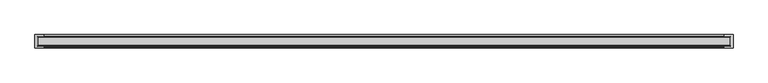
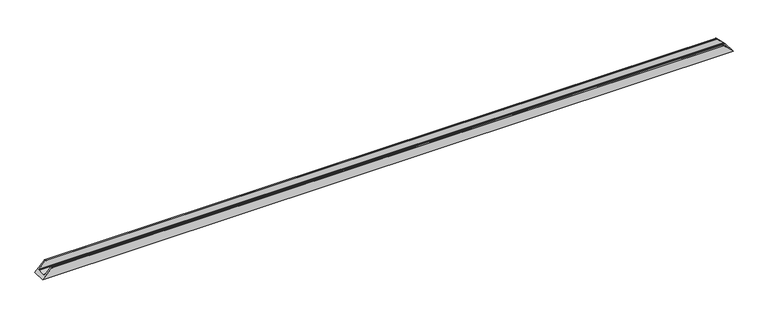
"""IFC4 building model written with IfcOpenShell, lengths in millimetres: proxy geometry, Weiku - Montante - Caixilho único 02.3.02.403 : Weiku - Montante - Caixilho único 02.3.02.403."""

from ifc_helpers import new_model, si_unit, frame, origin, place, context, project, spatial, ellipse_curve, source, transform, mapped, element, save
from ifc_brep_helpers import plane_surface, cylinder_surface, advanced_brep


def generic_models_1dc09772(model_context):
    return source(origin(), model_context, "Body", "AdvancedBrep", [
        advanced_brep(
        [(-2038.2, 9.8, 18.2), (-2000.5, 9.8, 55.9), (2000.5, 9.8, 55.9), (2038.2, 9.8, 18.2), (-2040.7000079, 63.85, 15.6999921), (-2040.7000079, 15.05, 15.6999921), (2040.7000079, 15.05, 15.6999921), (2040.7000079, 63.85, 15.6999921), (-2056.4, 78.9, 0.0), (2056.4, 78.9, 0.0), (2056.4, 0.0, 0.0), (-2056.4, 0.0, 0.0), (2000.5, 0.0, 55.9), (-2000.5, 0.0, 55.9), (-2000.0, 9.3, 56.4), (-2000.0, 0.5, 56.4), (2000.0, 0.5, 56.4), (2000.0, 9.3, 56.4), (-2038.2, 15.05, 18.2), (2038.2, 15.05, 18.2), (-2038.2, 63.85, 18.2), (2038.2, 63.85, 18.2), (-2038.2, 69.1, 18.2), (2038.2, 69.1, 18.2), (-2000.5, 69.1, 55.9), (2000.5, 69.1, 55.9), (-2000.0, 78.4, 56.4), (-2000.0, 69.6, 56.4), (2000.0, 69.6, 56.4), (2000.0, 78.4, 56.4), (-2000.5, 78.9, 55.9), (2000.5, 78.9, 55.9)],
        [
            (0, 1),
            (1, 2),
            (2, 3),
            (3, 0),
            (4, 5),
            (5, 6),
            (6, 7),
            (7, 4),
            (8, 9),
            (9, 10),
            (10, 11),
            (11, 8),
            (10, 12),
            (12, 13),
            (13, 11),
            (14, 15),
            (15, 16),
            (16, 17),
            (17, 14),
            (18, 0),
            (3, 19),
            (19, 18),
            (5, 18),
            (19, 6),
            (15, 13, ellipse_curve(frame((-2000.5, 0.5, 55.9), z_axis=(0.7071067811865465, 0.0, -0.7071067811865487), x_axis=(-0.7071067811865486, 0.0, -0.7071067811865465)), 0.7071068, 0.5)),
            (12, 16, ellipse_curve(frame((2000.5, 0.5, 55.9), z_axis=(-0.7071067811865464, 0.0, -0.7071067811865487), x_axis=(-0.7071067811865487, 0.0, 0.7071067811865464)), 0.7071068, 0.5)),
            (20, 4),
            (7, 21),
            (21, 20),
            (22, 20),
            (21, 23),
            (23, 22),
            (24, 22),
            (23, 25),
            (25, 24),
            (26, 27),
            (27, 28),
            (28, 29),
            (29, 26),
            (30, 26, ellipse_curve(frame((-2000.5, 78.4, 55.9), z_axis=(0.7071067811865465, 0.0, -0.7071067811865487), x_axis=(-0.7071067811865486, 0.0, -0.7071067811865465)), 0.7071068, 0.5)),
            (29, 31, ellipse_curve(frame((2000.5, 78.4, 55.9), z_axis=(-0.7071067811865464, 0.0, -0.7071067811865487), x_axis=(-0.7071067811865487, 0.0, 0.7071067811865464)), 0.7071068, 0.5)),
            (31, 30),
            (8, 30),
            (31, 9),
            (1, 14, ellipse_curve(frame((-2000.5, 9.3, 55.9), z_axis=(0.7071067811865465, 0.0, -0.7071067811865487), x_axis=(-0.7071067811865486, 0.0, -0.7071067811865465)), 0.7071068, 0.5)),
            (17, 2, ellipse_curve(frame((2000.5, 9.3, 55.9), z_axis=(-0.7071067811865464, 0.0, -0.7071067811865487), x_axis=(-0.7071067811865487, 0.0, 0.7071067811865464)), 0.7071068, 0.5)),
            (27, 24, ellipse_curve(frame((-2000.5, 69.6, 55.9), z_axis=(0.7071067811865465, 0.0, -0.7071067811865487), x_axis=(-0.7071067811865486, 0.0, -0.7071067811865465)), 0.7071068, 0.5)),
            (25, 28, ellipse_curve(frame((2000.5, 69.6, 55.9), z_axis=(-0.7071067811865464, 0.0, -0.7071067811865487), x_axis=(-0.7071067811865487, 0.0, 0.7071067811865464)), 0.7071068, 0.5)),
        ],
        [
            plane_surface(frame((-2056.4, 9.8, 55.9), z_axis=(0.0, 1.0, 0.0), x_axis=(1.0, 0.0, 0.0))),
            plane_surface(frame((-2056.4, 15.05, 15.6999921), z_axis=(0.0, 0.0, 1.0), x_axis=(1.0, 0.0, 0.0))),
            plane_surface(frame((-2056.4, 78.9, 0.0), z_axis=(0.0, 0.0, -1.0), x_axis=(1.0, 0.0, 0.0))),
            plane_surface(frame((-2056.4, 0.0, 0.0), z_axis=(0.0, -1.0, 0.0), x_axis=(1.0, 0.0, 0.0))),
            plane_surface(frame((-2056.4, 0.5, 56.4), z_axis=(0.0, 0.0, 1.0), x_axis=(1.0, 0.0, 0.0))),
            plane_surface(frame((-2056.4, 9.8, 18.2), z_axis=(0.0, 0.0, 1.0), x_axis=(1.0, 0.0, 0.0))),
            plane_surface(frame((-2056.4, 15.05, 18.2), z_axis=(0.0, 1.0, 0.0), x_axis=(1.0, 0.0, 0.0))),
            cylinder_surface(frame((-2056.4, 0.5, 55.9), z_axis=(-1.0, 0.0, 0.0), x_axis=(0.0, 1.0, 0.0)), 0.5),
            plane_surface(frame((-2056.4, 63.85, 15.6999921), z_axis=(0.0, -1.0, 0.0), x_axis=(1.0, 0.0, 0.0))),
            plane_surface(frame((-2056.4, 63.85, 18.2), z_axis=(0.0, 0.0, 1.0), x_axis=(1.0, 0.0, 0.0))),
            plane_surface(frame((-2056.4, 69.1, 18.2), z_axis=(0.0, -1.0, 0.0), x_axis=(1.0, 0.0, 0.0))),
            plane_surface(frame((-2056.4, 69.6, 56.4), z_axis=(0.0, 0.0, 1.0), x_axis=(1.0, 0.0, 0.0))),
            cylinder_surface(frame((-2056.4, 78.4, 55.9), z_axis=(-1.0, 0.0, 0.0), x_axis=(0.0, -1.0, 0.0)), 0.5),
            plane_surface(frame((-2056.4, 78.9, 55.9), z_axis=(0.0, 1.0, 0.0), x_axis=(1.0, 0.0, 0.0))),
            cylinder_surface(frame((-2056.4, 9.3, 55.9), z_axis=(-1.0, 0.0, 0.0), x_axis=(0.0, 1.0, 0.0)), 0.5),
            cylinder_surface(frame((-2056.4, 69.6, 55.9), z_axis=(-1.0, 0.0, 0.0), x_axis=(0.0, 1.0, 0.0)), 0.5),
            plane_surface(frame((-2056.4, 0.0, 0.0), z_axis=(-0.7071067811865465, 0.0, 0.7071067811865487), x_axis=(0.0, 1.0, 0.0))),
            plane_surface(frame((1996.4, 0.0, 60.0), z_axis=(0.7071067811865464, 0.0, 0.7071067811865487), x_axis=(0.0, 1.0, 0.0))),
        ],
        [
            (0, [[1, 2, 3, 4]]),
            (1, [[5, 6, 7, 8]]),
            (2, [[9, 10, 11, 12]]),
            (3, [[-11, 13, 14, 15]]),
            (4, [[16, 17, 18, 19]]),
            (5, [[20, -4, 21, 22]]),
            (6, [[23, -22, 24, -6]]),
            (7, [[25, -14, 26, -17]]),
            (8, [[27, -8, 28, 29]]),
            (9, [[30, -29, 31, 32]]),
            (10, [[33, -32, 34, 35]]),
            (11, [[36, 37, 38, 39]]),
            (12, [[40, -39, 41, 42]]),
            (13, [[-9, 43, -42, 44]]),
            (14, [[45, -19, 46, -2]]),
            (15, [[47, -35, 48, -37]]),
            (16, [[-1, -20, -23, -5, -27, -30, -33, -47, -36, -40, -43, -12, -15, -25, -16, -45]]),
            (17, [[-3, -46, -18, -26, -13, -10, -44, -41, -38, -48, -34, -31, -28, -7, -24, -21]]),
        ],
    ),
    ])


if __name__ == "__main__":
    model = new_model("IFC4")
    model_context = context("Model", 3, world=origin())
    ifc_project = project(units=[si_unit("LENGTHUNIT", "METRE", prefix="MILLI")], contexts=[model_context])
    site = spatial("IfcSite", under=ifc_project)
    building = spatial("IfcBuilding", under=site)
    placement = place(None, origin())
    generic_models_shape = generic_models_1dc09772(model_context)
    element("IfcBuildingElementProxy", 1, Name="Weiku - Montante - Caixilho único 02.3.02.403 : Weiku - Montante - Caixilho único 02.3.02.403", ObjectType="Weiku - Montante - Caixilho único 02.3.02.403 : Weiku - Montante - Caixilho único 02.3.02.403", at=placement, inside=building, context=model_context, shape_type="MappedRepresentation", body=[
        mapped(generic_models_shape, transform((0.0, 0.0, 0.0), x_axis=(1.0, 0.0, 0.0), y_axis=(0.0, 1.0, 0.0), z_axis=(0.0, 0.0, 1.0))),
    ])
    save(model, "model.ifc")
